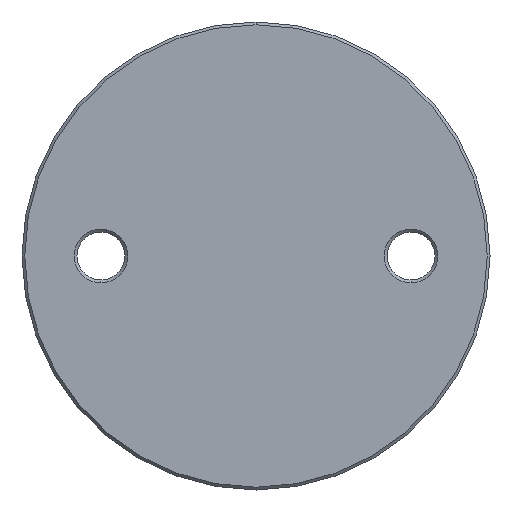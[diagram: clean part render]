
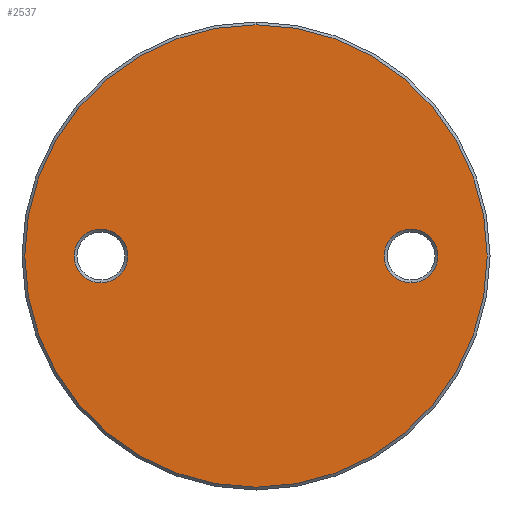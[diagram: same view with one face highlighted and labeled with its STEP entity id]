
A CAD part, front view. The second image highlights one B-rep face of the part: STEP entity #2537.
In plain terms, the highlighted planar face has unit normal (0, -1, 0).
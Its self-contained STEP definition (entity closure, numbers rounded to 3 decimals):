
#168 = VERTEX_POINT ( 'NONE', #2709 ) ;
#210 = EDGE_CURVE ( 'NONE', #168, #4412, #3267, .T. ) ;
#232 = DIRECTION ( 'NONE',  ( 0., 1., 0. ) ) ;
#506 = EDGE_LOOP ( 'NONE', ( #4343, #582 ) ) ;
#582 = ORIENTED_EDGE ( 'NONE', *, *, #1731, .T. ) ;
#631 = AXIS2_PLACEMENT_3D ( 'NONE', #2154, #232, #4996 ) ;
#774 = DIRECTION ( 'NONE',  ( 0., 0., -1. ) ) ;
#800 = CIRCLE ( 'NONE', #631, 4.75 ) ;
#997 = EDGE_CURVE ( 'NONE', #4655, #2993, #5384, .T. ) ;
#1065 = CARTESIAN_POINT ( 'NONE',  ( 0., -3., 0. ) ) ;
#1176 = EDGE_CURVE ( 'NONE', #2993, #4655, #800, .T. ) ;
#1235 = CIRCLE ( 'NONE', #2864, 41. ) ;
#1365 = CIRCLE ( 'NONE', #4327, 41. ) ;
#1493 = EDGE_LOOP ( 'NONE', ( #5850, #5844 ) ) ;
#1508 = CARTESIAN_POINT ( 'NONE',  ( -27.5, -3., 0. ) ) ;
#1565 = DIRECTION ( 'NONE',  ( 0., 0., -1. ) ) ;
#1604 = EDGE_LOOP ( 'NONE', ( #2955, #5320 ) ) ;
#1660 = AXIS2_PLACEMENT_3D ( 'NONE', #4111, #3725, #1825 ) ;
#1731 = EDGE_CURVE ( 'NONE', #4486, #5399, #1235, .T. ) ;
#1762 = CIRCLE ( 'NONE', #2377, 4.75 ) ;
#1825 = DIRECTION ( 'NONE',  ( 0., 0., -1. ) ) ;
#1936 = DIRECTION ( 'NONE',  ( 0., 0., -1. ) ) ;
#2154 = CARTESIAN_POINT ( 'NONE',  ( -27.5, -3., 0. ) ) ;
#2182 = CARTESIAN_POINT ( 'NONE',  ( 0., -3., 0. ) ) ;
#2304 = CARTESIAN_POINT ( 'NONE',  ( -27.5, -3., 4.75 ) ) ;
#2377 = AXIS2_PLACEMENT_3D ( 'NONE', #5765, #5786, #4316 ) ;
#2458 = CARTESIAN_POINT ( 'NONE',  ( 0., -3., 41. ) ) ;
#2537 = ADVANCED_FACE ( 'NONE', ( #4025, #6128, #3580 ), #5662, .T. ) ;
#2642 = EDGE_CURVE ( 'NONE', #5399, #4486, #1365, .T. ) ;
#2709 = CARTESIAN_POINT ( 'NONE',  ( 27.5, -3., 4.75 ) ) ;
#2745 = AXIS2_PLACEMENT_3D ( 'NONE', #1508, #3879, #1565 ) ;
#2864 = AXIS2_PLACEMENT_3D ( 'NONE', #2182, #5473, #774 ) ;
#2955 = ORIENTED_EDGE ( 'NONE', *, *, #997, .T. ) ;
#2993 = VERTEX_POINT ( 'NONE', #2304 ) ;
#3267 = CIRCLE ( 'NONE', #1660, 4.75 ) ;
#3356 = CARTESIAN_POINT ( 'NONE',  ( 0., -3., 41.5 ) ) ;
#3376 = AXIS2_PLACEMENT_3D ( 'NONE', #3356, #3807, #1936 ) ;
#3580 = FACE_OUTER_BOUND ( 'NONE', #506, .T. ) ;
#3725 = DIRECTION ( 'NONE',  ( 0., 1., 0. ) ) ;
#3807 = DIRECTION ( 'NONE',  ( 0., -1., 0. ) ) ;
#3879 = DIRECTION ( 'NONE',  ( 0., 1., 0. ) ) ;
#4025 = FACE_BOUND ( 'NONE', #1493, .T. ) ;
#4111 = CARTESIAN_POINT ( 'NONE',  ( 27.5, -3., 0. ) ) ;
#4316 = DIRECTION ( 'NONE',  ( 0., 0., -1. ) ) ;
#4327 = AXIS2_PLACEMENT_3D ( 'NONE', #1065, #4380, #5796 ) ;
#4343 = ORIENTED_EDGE ( 'NONE', *, *, #2642, .T. ) ;
#4380 = DIRECTION ( 'NONE',  ( 0., -1., 0. ) ) ;
#4412 = VERTEX_POINT ( 'NONE', #5601 ) ;
#4468 = CARTESIAN_POINT ( 'NONE',  ( 0., -3., -41. ) ) ;
#4486 = VERTEX_POINT ( 'NONE', #4468 ) ;
#4655 = VERTEX_POINT ( 'NONE', #6004 ) ;
#4996 = DIRECTION ( 'NONE',  ( 0., 0., -1. ) ) ;
#5320 = ORIENTED_EDGE ( 'NONE', *, *, #1176, .T. ) ;
#5384 = CIRCLE ( 'NONE', #2745, 4.75 ) ;
#5399 = VERTEX_POINT ( 'NONE', #2458 ) ;
#5473 = DIRECTION ( 'NONE',  ( 0., -1., 0. ) ) ;
#5601 = CARTESIAN_POINT ( 'NONE',  ( 27.5, -3., -4.75 ) ) ;
#5662 = PLANE ( 'NONE',  #3376 ) ;
#5765 = CARTESIAN_POINT ( 'NONE',  ( 27.5, -3., 0. ) ) ;
#5786 = DIRECTION ( 'NONE',  ( 0., 1., 0. ) ) ;
#5796 = DIRECTION ( 'NONE',  ( 0., 0., -1. ) ) ;
#5844 = ORIENTED_EDGE ( 'NONE', *, *, #210, .T. ) ;
#5850 = ORIENTED_EDGE ( 'NONE', *, *, #5985, .T. ) ;
#5985 = EDGE_CURVE ( 'NONE', #4412, #168, #1762, .T. ) ;
#6004 = CARTESIAN_POINT ( 'NONE',  ( -27.5, -3., -4.75 ) ) ;
#6128 = FACE_BOUND ( 'NONE', #1604, .T. ) ;
